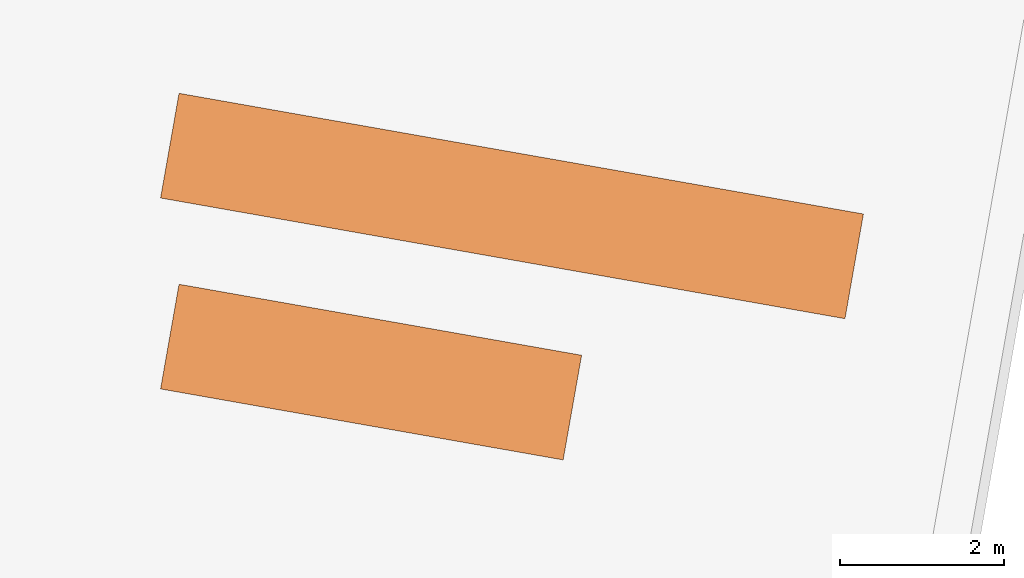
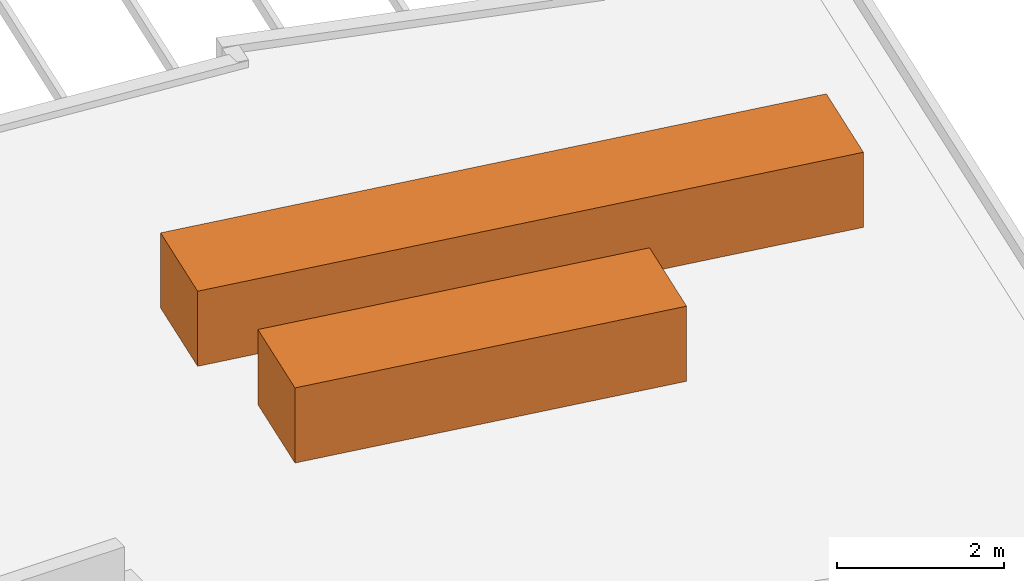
# One storey, part 3 of 3: 2 proxies.
"""IFC2X3 building model written with IfcOpenShell, lengths in millimetres."""

import ifcopenshell
import ifcopenshell.guid

model = None  # the IFC model being written
_history = None  # IfcOwnerHistory: only IFC2X3 demands one
_inside = {}  # id of a spatial element -> (the spatial element, [elements in it])
_under = {}  # id of a project, library or spatial element -> (it, [spatial elements below it])
_declared = {}  # id of a project -> (the project, [libraries it declares])
_typed = {}  # id of a type object -> (the type object, [elements of that type])
_made_of = {}  # id of a material, layer set ... -> (it, [elements and type objects made of it])


def new_model(schema):
    """Start an empty IFC model of exactly this schema.

    Asked for "IFC4X3", IfcOpenShell would pick the latest addendum, in which some entities
    have other attributes; the version numbers below select the first issue.
    IFC2X3 requires an IfcOwnerHistory on every rooted entity: one is made here for all.
    """
    global model, _history
    if schema == "IFC4X3":
        model = ifcopenshell.file(schema_version=(4, 3, 0, 0))
    else:
        model = ifcopenshell.file(schema=schema)
    _inside.clear()
    _under.clear()
    _declared.clear()
    _typed.clear()
    _made_of.clear()
    _history = None
    if model.schema == "IFC2X3":
        org = make("IfcOrganization", Name="unknown")
        user = make(
            "IfcPersonAndOrganization",
            ThePerson=make("IfcPerson", FamilyName="unknown"),
            TheOrganization=org,
        )
        app = make(
            "IfcApplication",
            ApplicationDeveloper=org,
            Version="unknown",
            ApplicationFullName="unknown",
            ApplicationIdentifier="unknown",
        )
        _history = make(
            "IfcOwnerHistory",
            OwningUser=user,
            OwningApplication=app,
            ChangeAction="ADDED",
            CreationDate=0,
        )
    return model


def make(cls, **values):
    """One entity of the class cls with the attributes given. An attribute that is None is left unset."""
    return model.create_entity(
        cls, **{name: value for name, value in values.items() if value is not None}
    )


def entity(cls, *values):
    """Any entity or typed value of the class cls, its attributes in the order of the schema. None: left unset."""
    e = model.create_entity(cls)
    for i, value in enumerate(values):
        if value is not None:
            e[i] = value
    return e


def rooted(cls, **values):
    """An entity with a GlobalId (a new one), such as an element, a storey or a relation."""
    return make(cls, GlobalId=ifcopenshell.guid.new(), OwnerHistory=_history, **values)


def si_unit(unit_type, name, prefix=None):
    """IfcSIUnit, for example si_unit("LENGTHUNIT", "METRE", prefix="MILLI")."""
    return make("IfcSIUnit", UnitType=unit_type, Prefix=prefix, Name=name)


def converted_unit(unit_type, name, factor, base, dimensions=None, offset=None):
    """IfcConversionBasedUnit, such as the inch: factor (a typed value) times the base unit."""
    return make(
        "IfcConversionBasedUnit"
        if offset is None
        else "IfcConversionBasedUnitWithOffset",
        ConversionOffset=offset,
        Dimensions=None
        if dimensions is None
        else entity("IfcDimensionalExponents", *dimensions),
        UnitType=unit_type,
        Name=name,
        ConversionFactor=make(
            "IfcMeasureWithUnit", ValueComponent=factor, UnitComponent=base
        ),
    )


def derived_unit(unit_type, elements):
    """IfcDerivedUnit: a product of units, each with its exponent."""
    return make(
        "IfcDerivedUnit",
        Elements=[
            make("IfcDerivedUnitElement", Unit=unit, Exponent=power)
            for unit, power in elements
        ],
        UnitType=unit_type,
    )


def assignment(units):
    """IfcUnitAssignment: the units of a project."""
    return None if units is None else make("IfcUnitAssignment", Units=units)


def point(xyz):
    """IfcCartesianPoint."""
    return None if xyz is None else make("IfcCartesianPoint", Coordinates=xyz)


def direction(xyz):
    """IfcDirection."""
    return None if xyz is None else make("IfcDirection", DirectionRatios=xyz)


def frame(location, z_axis=None, x_axis=None):
    """IfcAxis2Placement3D, a coordinate frame: its origin and axes. An axis left out is left unset."""
    return make(
        "IfcAxis2Placement3D",
        Location=point(location),
        Axis=direction(z_axis),
        RefDirection=direction(x_axis),
    )


def frame_2d(location, x_axis=None):
    """IfcAxis2Placement2D, a coordinate frame in the plane: its origin and x axis."""
    return make(
        "IfcAxis2Placement2D", Location=point(location), RefDirection=direction(x_axis)
    )


def origin():
    """The frame at (0, 0, 0) with its axes left unset."""
    return frame((0.0, 0.0, 0.0))


def origin_2d_with_axis():
    """The frame at (0, 0) in the plane with the x axis (1, 0) written out."""
    return frame_2d((0.0, 0.0), x_axis=(1.0, 0.0))


def place(relative_to, where):
    """IfcLocalPlacement: puts the frame where relative to a parent placement (None: the world)."""
    return make(
        "IfcLocalPlacement", PlacementRelTo=relative_to, RelativePlacement=where
    )


def context(
    kind, dimensions, precision=None, world=None, true_north=None, identifier=None
):
    """IfcGeometricRepresentationContext, for example the 3D "Model" context."""
    return make(
        "IfcGeometricRepresentationContext",
        ContextIdentifier=identifier,
        ContextType=kind,
        CoordinateSpaceDimension=dimensions,
        Precision=precision,
        WorldCoordinateSystem=world,
        TrueNorth=true_north,
    )


def subcontext(parent, identifier, kind, view, scale=None):
    """IfcGeometricRepresentationSubContext, for example "Body" below "Model"."""
    return make(
        "IfcGeometricRepresentationSubContext",
        ContextIdentifier=identifier,
        ContextType=kind,
        ParentContext=parent,
        TargetScale=scale,
        TargetView=view,
    )


def project(units=None, contexts=None):
    """IfcProject with its units and contexts."""
    return rooted(
        "IfcProject",
        Name="project",
        RepresentationContexts=contexts,
        UnitsInContext=assignment(units),
    )


def spatial(cls, under=None, at=None, **own):
    """A site, building, storey or space (cls), placed at a placement, below another one or the project."""
    s = rooted(cls, ObjectPlacement=at, **own)
    if under is not None:
        _under.setdefault(under.id(), (under, []))[1].append(s)
    return s


def profile(cls, at=None, kind="AREA", **sizes):
    """A parametric profile (cls). Its sizes go by their IFC names, for example OverallWidth=200.0."""
    return make(cls, ProfileType=kind, Position=at, **sizes)


def rectangle(**sizes):
    """IfcRectangleProfileDef."""
    return profile("IfcRectangleProfileDef", **sizes)


def extrude(swept, where, along, depth):
    """IfcExtrudedAreaSolid: the profile swept, set in the frame where, extruded along a direction by depth."""
    return make(
        "IfcExtrudedAreaSolid",
        SweptArea=swept,
        Position=where,
        ExtrudedDirection=direction(along),
        Depth=depth,
    )


def shape(context_of_items, identifier, shape_type, items):
    """IfcShapeRepresentation: the items that make up one representation, for example the "Body"."""
    return make(
        "IfcShapeRepresentation",
        ContextOfItems=context_of_items,
        RepresentationIdentifier=identifier,
        RepresentationType=shape_type,
        Items=items,
    )


def source(mapping_origin, context_of_items, identifier, shape_type, items):
    """IfcRepresentationMap: a shape defined once, which mapped items show again and again."""
    return make(
        "IfcRepresentationMap",
        MappingOrigin=mapping_origin,
        MappedRepresentation=shape(context_of_items, identifier, shape_type, items),
    )


def transform(
    local_origin,
    x_axis=None,
    y_axis=None,
    z_axis=None,
    scale=None,
    scale2=None,
    scale3=None,
    uniform=True,
):
    """IfcCartesianTransformationOperator3D, or its non-uniform kind. x_axis, y_axis, z_axis: its Axis1, 2, 3."""
    if uniform:
        return make(
            "IfcCartesianTransformationOperator3D",
            Axis1=direction(x_axis),
            Axis2=direction(y_axis),
            LocalOrigin=point(local_origin),
            Scale=scale,
            Axis3=direction(z_axis),
        )
    return make(
        "IfcCartesianTransformationOperator3DnonUniform",
        Axis1=direction(x_axis),
        Axis2=direction(y_axis),
        LocalOrigin=point(local_origin),
        Scale=scale,
        Axis3=direction(z_axis),
        Scale2=scale2,
        Scale3=scale3,
    )


def mapped(mapping_source, mapping_target):
    """IfcMappedItem: shows the shape of a source again, moved by a transform."""
    return make(
        "IfcMappedItem", MappingSource=mapping_source, MappingTarget=mapping_target
    )


def material(Name=None, Category=None):
    """IfcMaterial."""
    return make("IfcMaterial", Name=Name, Category=Category)


def made_of(thing, what):
    """Note that an element or type object is made of a material, layer set ...; save() writes the relation."""
    if what is not None:
        _made_of.setdefault(what.id(), (what, []))[1].append(thing)
    return thing


def type_object(cls, material=None, **own):
    """A type object (cls), such as IfcWallType, which elements share."""
    return made_of(rooted(cls, **own), material)


def type_shapes(of_type, sources):
    """Give a type object the sources (RepresentationMaps) that its elements show as mapped items."""
    of_type.RepresentationMaps = sources


def element(
    cls,
    number,
    at=None,
    inside=None,
    cuts=None,
    type_object=None,
    material=None,
    context=None,
    identifier="Body",
    shape_type=None,
    held_by="IfcProductDefinitionShape",
    body=None,
    shapes=None,
    **own,
):
    """One element of the class cls, such as IfcWall. Its Tag is "e" and its number.

    at: its placement. inside: the storey or other place that contains it. cuts: it is an
    opening in that element (IfcRelVoidsElement). A single representation is given by context,
    identifier, shape_type and body (its items); several are given by shapes. held_by: the class
    of the entity that holds the representations. save() writes the other relations.
    """
    e = rooted(cls, Tag="e%d" % number, ObjectPlacement=at, **own)
    if body is not None:
        shapes = [shape(context, identifier, shape_type, body)]
    if shapes is not None:
        e.Representation = make(held_by, Representations=shapes)
    if inside is not None:
        _inside.setdefault(inside.id(), (inside, []))[1].append(e)
    if cuts is not None:
        rooted(
            "IfcRelVoidsElement", RelatingBuildingElement=cuts, RelatedOpeningElement=e
        )
    if type_object is not None:
        _typed.setdefault(type_object.id(), (type_object, []))[1].append(e)
    return made_of(e, material)


def aggregate(whole, parts):
    """IfcRelAggregates: a whole, such as a stair, and the parts it consists of."""
    return rooted("IfcRelAggregates", RelatingObject=whole, RelatedObjects=parts)


def save(model, path):
    """Write the relations noted so far, then the file.

    IfcRelAggregates (storeys below a building ...), IfcRelContainedInSpatialStructure (elements
    in a storey), IfcRelDefinesByType, IfcRelAssociatesMaterial and IfcRelDeclares: one each for
    every whole, place, type object, material and project.
    """
    for whole, parts in _under.values():
        aggregate(whole, parts)
    for where, things in _inside.values():
        rooted(
            "IfcRelContainedInSpatialStructure",
            RelatedElements=things,
            RelatingStructure=where,
        )
    for kind, things in _typed.values():
        rooted("IfcRelDefinesByType", RelatedObjects=things, RelatingType=kind)
    for what, things in _made_of.values():
        rooted("IfcRelAssociatesMaterial", RelatedObjects=things, RelatingMaterial=what)
    for by, libraries in _declared.values():
        rooted("IfcRelDeclares", RelatingContext=by, RelatedDefinitions=libraries)
    model.write(path)


model = new_model("IFC2X3")

# Units and contexts
model_context = context("Model", 3, precision=0.01, world=origin(), true_north=direction((6.12303176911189e-17, 1.0)))
body_context = subcontext(model_context, "Body", "Model", "MODEL_VIEW")
ifc_project = project(units=[si_unit("LENGTHUNIT", "METRE", prefix="MILLI"), si_unit("AREAUNIT", "SQUARE_METRE"), si_unit("VOLUMEUNIT", "CUBIC_METRE"), converted_unit("PLANEANGLEUNIT", "DEGREE", entity("IfcRatioMeasure", 0.0174532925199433), si_unit("PLANEANGLEUNIT", "RADIAN"), dimensions=[0, 0, 0, 0, 0, 0, 0]), si_unit("MASSUNIT", "GRAM", prefix="KILO"), derived_unit("MASSDENSITYUNIT", [(si_unit("MASSUNIT", "GRAM", prefix="KILO"), 1), (si_unit("LENGTHUNIT", "METRE"), -3)]), si_unit("TIMEUNIT", "SECOND"), si_unit("FREQUENCYUNIT", "HERTZ"), si_unit("THERMODYNAMICTEMPERATUREUNIT", "DEGREE_CELSIUS"), derived_unit("THERMALTRANSMITTANCEUNIT", [(si_unit("MASSUNIT", "GRAM", prefix="KILO"), 1), (si_unit("THERMODYNAMICTEMPERATUREUNIT", "KELVIN"), -1), (si_unit("TIMEUNIT", "SECOND"), -3)]), derived_unit("VOLUMETRICFLOWRATEUNIT", [(si_unit("LENGTHUNIT", "METRE"), 3), (si_unit("TIMEUNIT", "SECOND"), -1)]), si_unit("ELECTRICCURRENTUNIT", "AMPERE"), si_unit("ELECTRICVOLTAGEUNIT", "VOLT"), si_unit("POWERUNIT", "WATT"), si_unit("FORCEUNIT", "NEWTON", prefix="KILO"), si_unit("ILLUMINANCEUNIT", "LUX"), si_unit("LUMINOUSFLUXUNIT", "LUMEN"), si_unit("LUMINOUSINTENSITYUNIT", "CANDELA"), derived_unit("USERDEFINED", [(si_unit("MASSUNIT", "GRAM", prefix="KILO"), -1), (si_unit("LENGTHUNIT", "METRE"), -2), (si_unit("TIMEUNIT", "SECOND"), 3), (si_unit("LUMINOUSFLUXUNIT", "LUMEN"), 1)]), derived_unit("LINEARVELOCITYUNIT", [(si_unit("LENGTHUNIT", "METRE"), 1), (si_unit("TIMEUNIT", "SECOND"), -1)]), si_unit("PRESSUREUNIT", "PASCAL"), derived_unit("USERDEFINED", [(si_unit("LENGTHUNIT", "METRE"), -2), (si_unit("MASSUNIT", "GRAM", prefix="KILO"), 1), (si_unit("TIMEUNIT", "SECOND"), -2)])], contexts=[model_context])

# Site, building, storey
site_placement = place(None, origin())
site = spatial("IfcSite", under=ifc_project, at=site_placement, Name="<Kadaster Gemeente>;<Kadaster nummer>;<Kadaster sectie>", CompositionType="ELEMENT")
building_placement = place(site_placement, origin())
building = spatial("IfcBuilding", under=site, at=building_placement, Name="JRCZ Middelburg", CompositionType="ELEMENT")
storey_placement = place(building_placement, frame((0.0, 0.0, 6000.0)))
storey = spatial("IfcBuildingStorey", under=building, at=storey_placement, Name="03 dak", CompositionType="ELEMENT", Elevation=6000.0)

# Proxies
ifc_material = material(Name="Default wit")
building_element_proxy_type_1 = type_object("IfcBuildingElementProxyType", Name="lbk 1", PredefinedType="NOTDEFINED", material=ifc_material)
shared_shape_1 = source(origin(), body_context, "Body", "SweptSolid", [
    extrude(rectangle(XDim=5000.0, YDim=1300.0, at=frame_2d((-2.04636307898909e-12, -1.4210854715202e-12), x_axis=(1.0, 0.0))), frame((22785.5087885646, 11473.9861005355, 7000.0), z_axis=(0.0, 0.0, 1.0), x_axis=(0.984807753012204, -0.173648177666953, 0.0)), (0.0, 0.0, 1.0), 1100.0),
])
type_shapes(building_element_proxy_type_1, [shared_shape_1])
proxy_1_placement = place(storey_placement, frame((0.0, 0.0, -6000.0)))
element("IfcBuildingElementProxy", 1, at=proxy_1_placement, inside=storey, type_object=building_element_proxy_type_1, material=ifc_material, Name="lbk 3:lbk 1", ObjectType="lbk 3:lbk 1", context=body_context, shape_type="MappedRepresentation", body=[
    mapped(shared_shape_1, transform((0.0, 0.0, 0.0), scale=1.0)),
])
building_element_proxy_type_2 = type_object("IfcBuildingElementProxyType", Name="lbk 1", PredefinedType="NOTDEFINED", material=ifc_material)
shared_shape_2 = source(origin(), body_context, "Body", "SweptSolid", [
    extrude(rectangle(XDim=8500.0, YDim=1300.0, at=origin_2d_with_axis()), frame((24508.922356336, 13505.5829969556, 7000.0), z_axis=(0.0, 0.0, 1.0), x_axis=(0.984807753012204, -0.173648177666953, 0.0)), (0.0, 0.0, 1.0), 1100.0),
])
type_shapes(building_element_proxy_type_2, [shared_shape_2])
proxy_2_placement = place(storey_placement, frame((0.0, 0.0, -6000.0)))
element("IfcBuildingElementProxy", 2, at=proxy_2_placement, inside=storey, type_object=building_element_proxy_type_2, material=ifc_material, Name="lbk 4:lbk 1", ObjectType="lbk 4:lbk 1", context=body_context, shape_type="MappedRepresentation", body=[
    mapped(shared_shape_2, transform((0.0, 0.0, 0.0), scale=1.0)),
])

save(model, "model.ifc")
